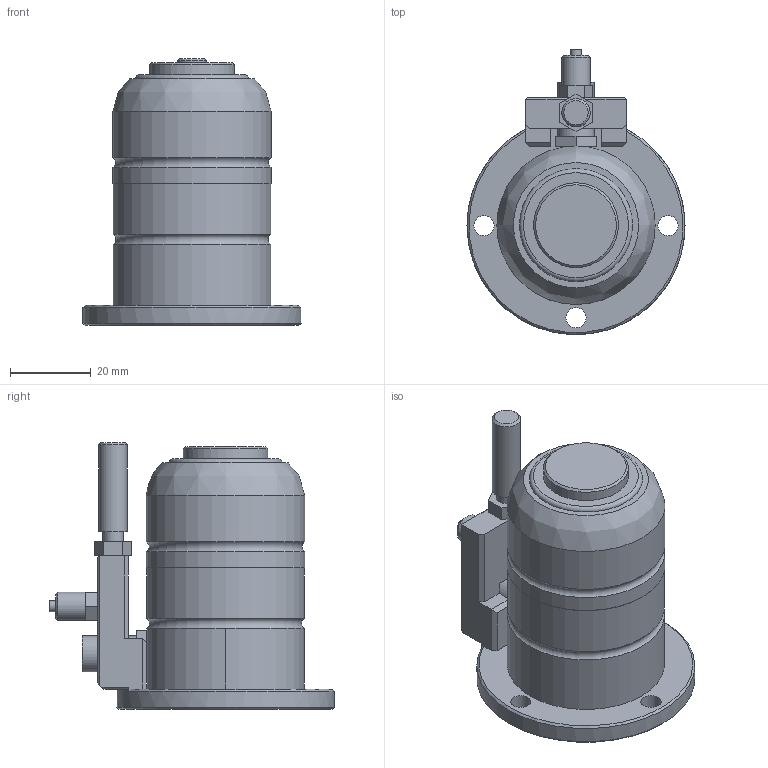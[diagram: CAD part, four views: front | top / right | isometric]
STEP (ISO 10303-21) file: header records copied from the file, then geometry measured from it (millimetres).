
FILE_DESCRIPTION(/* description */ (''),/* implementation_level */ '2;1');
FILE_NAME(/* name */ 'X:\Проектный отдел\Илья\3Д модели\Комплектующие к ЧПУ\Датчики концевые\Датчик высоты нажимной BEL-20B-NO\Датчик высоты нажимной BEL-20B-NO.stp',/* time_stamp */ '2021-03-23T12:04:50+03:00',/* author */ ('Евгений'),/* organization */ (''),/* preprocessor_version */ 'ST-DEVELOPER v18',/* originating_system */ 'Autodesk Inventor 2020',/* authorisation */ '');
FILE_SCHEMA (('AUTOMOTIVE_DESIGN { 1 0 10303 214 3 1 1 }'));
Length unit declared in the file: millimetre
Products named in the file (1): Деталь1
Bounding box: 54 x 70.6 x 66 mm (x, y, z)
Volume: 85657.5 mm3; surface area: 16784.3 mm2
Topology: 2 solids, 2 shells, 132 faces, 351 edges, 238 vertices
Faces by surface type: plane 101, cylinder 21, cone 6, torus 3, bspline 1
Full cylindrical faces by diameter (mm): 2.5 x1, 2.7 x1, 4 x1, 5 x4, 5.5 x2, 7 x2, 9 x1, 20 x1, 21 x1, 21.2 x1, 39 x1, 39.2 x2, 54 x1
Entity records: 4321 total; most frequent: CARTESIAN_POINT 754, DIRECTION 716, ORIENTED_EDGE 702, EDGE_CURVE 351, LINE 244, VECTOR 244, VERTEX_POINT 238, AXIS2_PLACEMENT_3D 236
